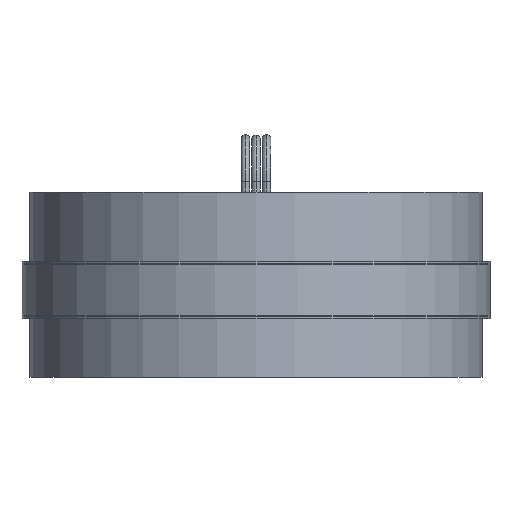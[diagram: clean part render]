
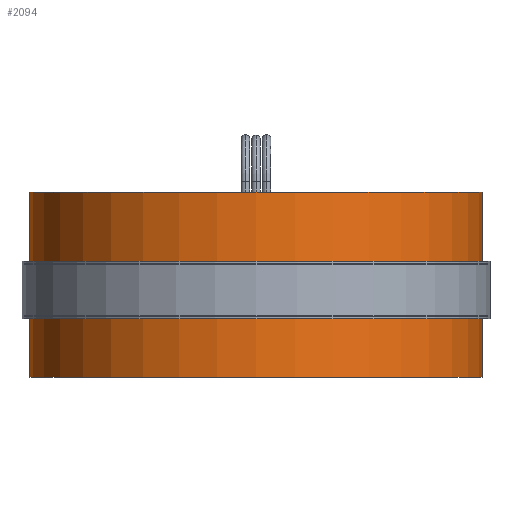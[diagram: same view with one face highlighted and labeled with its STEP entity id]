
A CAD part, front view. The second image highlights one B-rep face of the part: STEP entity #2094.
In plain terms, the highlighted cylindrical face has radius 53.975 mm (diameter 107.95 mm), a partial arc.
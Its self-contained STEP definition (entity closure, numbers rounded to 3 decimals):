
#21 = CARTESIAN_POINT ( 'NONE',  ( 0., 0., -20.828 ) ) ;
#184 = VERTEX_POINT ( 'NONE', #1966 ) ;
#308 = DIRECTION ( 'NONE',  ( 0., 0., 1. ) ) ;
#415 = CARTESIAN_POINT ( 'NONE',  ( 53.975, 0., -20.828 ) ) ;
#445 = ORIENTED_EDGE ( 'NONE', *, *, #498, .T. ) ;
#451 = EDGE_CURVE ( 'NONE', #1094, #184, #2253, .T. ) ;
#498 = EDGE_CURVE ( 'NONE', #606, #1094, #903, .T. ) ;
#539 = AXIS2_PLACEMENT_3D ( 'NONE', #21, #1582, #1378 ) ;
#555 = CIRCLE ( 'NONE', #605, 53.975 ) ;
#605 = AXIS2_PLACEMENT_3D ( 'NONE', #849, #630, #2221 ) ;
#606 = VERTEX_POINT ( 'NONE', #1501 ) ;
#630 = DIRECTION ( 'NONE',  ( 0., 0., 1. ) ) ;
#822 = CARTESIAN_POINT ( 'NONE',  ( -53.975, 0., 23.368 ) ) ;
#849 = CARTESIAN_POINT ( 'NONE',  ( 0., 0., 23.368 ) ) ;
#903 = CIRCLE ( 'NONE', #1245, 53.975 ) ;
#1074 = CYLINDRICAL_SURFACE ( 'NONE', #539, 53.975 ) ;
#1083 = ORIENTED_EDGE ( 'NONE', *, *, #451, .T. ) ;
#1094 = VERTEX_POINT ( 'NONE', #1433 ) ;
#1107 = VERTEX_POINT ( 'NONE', #822 ) ;
#1128 = CARTESIAN_POINT ( 'NONE',  ( -53.975, 0., -20.828 ) ) ;
#1131 = DIRECTION ( 'NONE',  ( 0., 0., 1. ) ) ;
#1245 = AXIS2_PLACEMENT_3D ( 'NONE', #1487, #308, #2525 ) ;
#1318 = EDGE_LOOP ( 'NONE', ( #1985, #445, #1083, #2529 ) ) ;
#1319 = LINE ( 'NONE', #1128, #1636 ) ;
#1320 = EDGE_CURVE ( 'NONE', #606, #1107, #1319, .T. ) ;
#1378 = DIRECTION ( 'NONE',  ( 1., 0., 0. ) ) ;
#1433 = CARTESIAN_POINT ( 'NONE',  ( 53.975, 0., -20.828 ) ) ;
#1487 = CARTESIAN_POINT ( 'NONE',  ( 0., 0., -20.828 ) ) ;
#1501 = CARTESIAN_POINT ( 'NONE',  ( -53.975, 0., -20.828 ) ) ;
#1582 = DIRECTION ( 'NONE',  ( 0., 0., 1. ) ) ;
#1636 = VECTOR ( 'NONE', #1692, 1000. ) ;
#1692 = DIRECTION ( 'NONE',  ( 0., 0., 1. ) ) ;
#1769 = EDGE_CURVE ( 'NONE', #1107, #184, #555, .T. ) ;
#1966 = CARTESIAN_POINT ( 'NONE',  ( 53.975, 0., 23.368 ) ) ;
#1985 = ORIENTED_EDGE ( 'NONE', *, *, #1320, .F. ) ;
#2011 = FACE_OUTER_BOUND ( 'NONE', #1318, .T. ) ;
#2023 = VECTOR ( 'NONE', #1131, 1000. ) ;
#2094 = ADVANCED_FACE ( 'NONE', ( #2011 ), #1074, .T. ) ;
#2221 = DIRECTION ( 'NONE',  ( 1., 0., 0. ) ) ;
#2253 = LINE ( 'NONE', #415, #2023 ) ;
#2525 = DIRECTION ( 'NONE',  ( 1., 0., 0. ) ) ;
#2529 = ORIENTED_EDGE ( 'NONE', *, *, #1769, .F. ) ;
